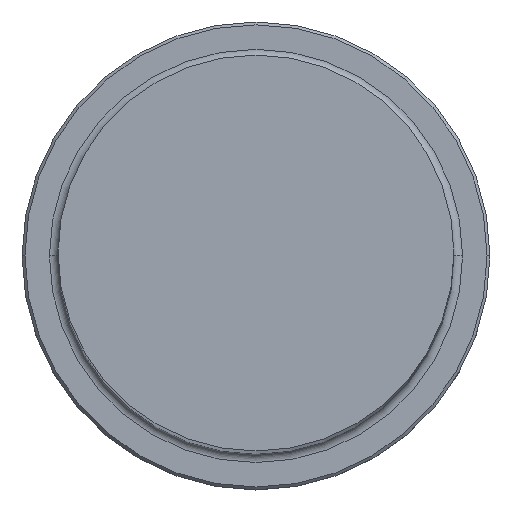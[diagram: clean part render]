
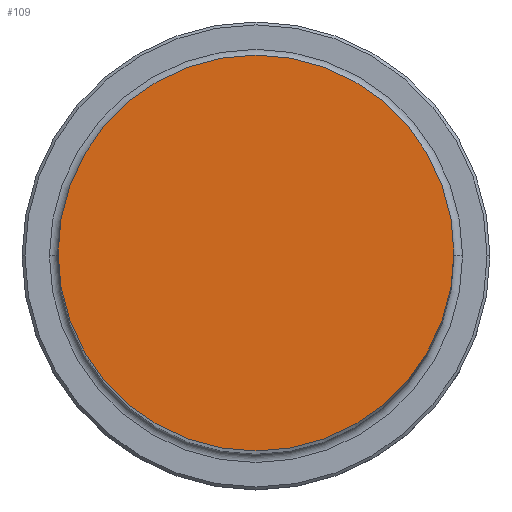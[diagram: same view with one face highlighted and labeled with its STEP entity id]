
A CAD part, top view. The second image highlights one B-rep face of the part: STEP entity #109.
In plain terms, the highlighted planar face has unit normal (0, 0, 1).
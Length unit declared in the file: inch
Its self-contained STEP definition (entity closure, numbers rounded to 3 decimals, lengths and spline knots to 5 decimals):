
#28 = CARTESIAN_POINT ( 'NONE',  ( -0.6875, 0., 6. ) ) ;
#53 = DIRECTION ( 'NONE',  ( -1., 0., 0. ) ) ;
#77 = VERTEX_POINT ( 'NONE', #28 ) ;
#84 = AXIS2_PLACEMENT_3D ( 'NONE', #275, #181, #150 ) ;
#94 = EDGE_CURVE ( 'NONE', #208, #77, #304, .T. ) ;
#100 = ORIENTED_EDGE ( 'NONE', *, *, #94, .F. ) ;
#102 = ORIENTED_EDGE ( 'NONE', *, *, #180, .F. ) ;
#109 = ADVANCED_FACE ( 'NONE', ( #209 ), #207, .T. ) ;
#126 = EDGE_LOOP ( 'NONE', ( #102, #100 ) ) ;
#144 = DIRECTION ( 'NONE',  ( 0., 0., 1. ) ) ;
#146 = CARTESIAN_POINT ( 'NONE',  ( 0., 0., 6. ) ) ;
#150 = DIRECTION ( 'NONE',  ( -1., 0., 0. ) ) ;
#153 = CARTESIAN_POINT ( 'NONE',  ( 0.6875, 0., 6. ) ) ;
#155 = CIRCLE ( 'NONE', #213, 0.6875 ) ;
#180 = EDGE_CURVE ( 'NONE', #77, #208, #155, .T. ) ;
#181 = DIRECTION ( 'NONE',  ( 0., 0., -1. ) ) ;
#207 = PLANE ( 'NONE',  #211 ) ;
#208 = VERTEX_POINT ( 'NONE', #153 ) ;
#209 = FACE_OUTER_BOUND ( 'NONE', #126, .T. ) ;
#211 = AXIS2_PLACEMENT_3D ( 'NONE', #402, #144, #300 ) ;
#213 = AXIS2_PLACEMENT_3D ( 'NONE', #146, #237, #53 ) ;
#237 = DIRECTION ( 'NONE',  ( 0., 0., -1. ) ) ;
#275 = CARTESIAN_POINT ( 'NONE',  ( 0., 0., 6. ) ) ;
#300 = DIRECTION ( 'NONE',  ( 1., 0., 0. ) ) ;
#304 = CIRCLE ( 'NONE', #84, 0.6875 ) ;
#402 = CARTESIAN_POINT ( 'NONE',  ( 0., 0.6875, 6. ) ) ;
